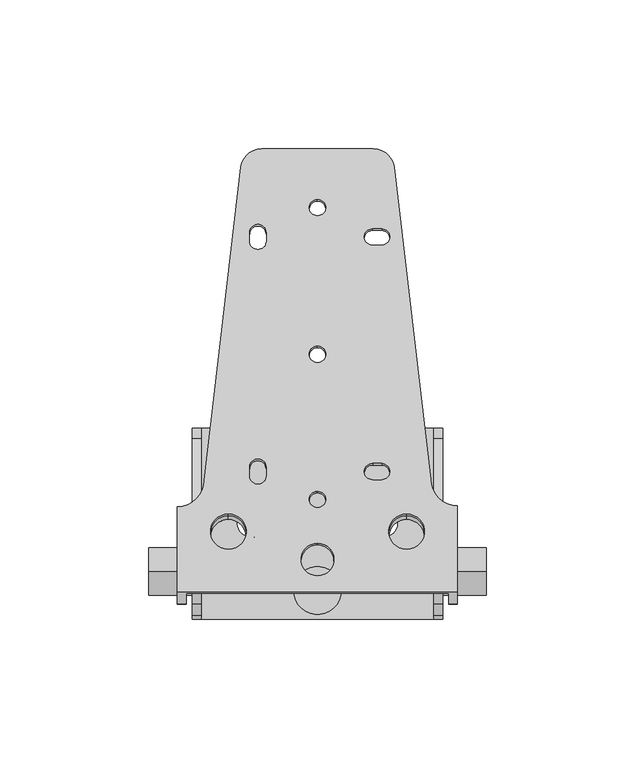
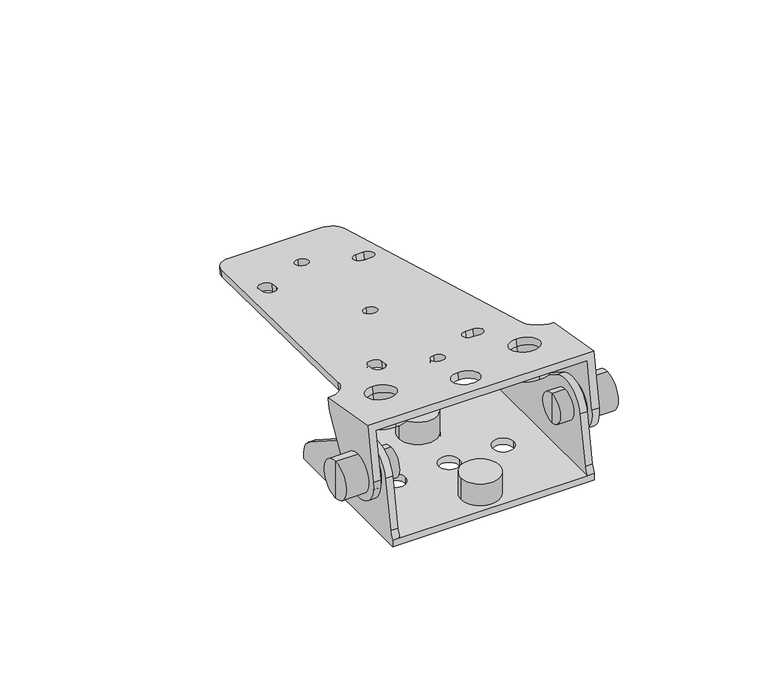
"""IFC4 building model written with IfcOpenShell, lengths in millimetres: proxy geometry, d&b xS-Series 42S l 44S Mounting Bracket : 42S l 44S Mounting Bracket."""

from ifc_helpers import new_model, si_unit, point, frame, frame_2d, origin, origin_with_axes, place, context, project, spatial, polyline, circle_curve, trimmed, segment, composite_curve, outline, extrude, source, transform, mapped, element, save
from ifc_brep_helpers import plane_surface, cylinder_surface, revolved_surface, advanced_brep


def communication_devices_69af7706(model_context):
    return source(origin(), model_context, "Body", "SolidModel", [
        advanced_brep(
        [(-25.7132706, 119.1969693, 21.4620232), (-18.7591389, 125.302745, 20.3854102), (18.7591389, 125.302745, 20.3854102), (25.7132706, 119.1969693, 21.4620232), (37.9541317, 14.4121133, 39.9384205), (47.0, 5.503672, 41.509219), (47.0, 5.1946437, 41.5637091), (44.0, 5.1946437, 41.5637091), (44.0, -23.4032257, 46.606285), (-44.0, -23.4032257, 46.606285), (-44.0, 5.1946437, 41.5637091), (-47.0, 5.1946437, 41.5637091), (-37.9949251, 14.0629112, 39.9999942), (-29.9380242, 2.7118503, 42.0014925), (-29.9380242, -9.1058427, 44.0852706), (29.9380242, 2.7118503, 42.0014925), (29.9380242, -9.1058427, 44.0852706), (0.0, 108.3148113, 23.3808413), (0.0, 102.8983686, 24.3359062), (0.0, 10.3264399, 40.6588349), (0.0, 4.9099972, 41.6138999), (0.0, -7.1538978, 43.7410901), (0.0, -17.986783, 45.65122), (-22.75, 15.4966806, 39.747182), (-17.25, 15.4966806, 39.747182), (-17.25, 18.4511038, 39.2262375), (-22.75, 18.4511038, 39.2262375), (21.5, 14.2656709, 39.9642422), (21.5, 19.6821135, 39.0091772), (18.5, 19.6821135, 39.0091772), (18.5, 14.2656709, 39.9642422), (-17.25, 97.2357241, 25.3343833), (-22.75, 97.2357241, 25.3343833), (-22.75, 94.2813008, 25.8553278), (-17.25, 94.2813008, 25.8553278), (18.5, 98.4667337, 25.117323), (18.5, 93.0502911, 26.072388), (21.5, 93.0502911, 26.072388), (21.5, 98.4667337, 25.117323), (0.0, 59.0744236, 32.0632501), (0.0, 53.657981, 33.0183151), (-25.7132706, 119.7179138, 24.4164464), (-37.9949251, 14.5838558, 42.9544175), (-47.0, 5.7155882, 44.5181323), (-47.0, -22.8822812, 49.5607083), (47.0, -22.8822812, 49.5607083), (47.0, 6.0246166, 44.4636423), (37.9541317, 14.9330578, 42.8928437), (25.7132706, 119.7179138, 24.4164464), (18.7591389, 125.8236896, 23.3398334), (-18.7591389, 125.8236896, 23.3398334), (-29.9380242, 3.2327949, 44.9559158), (-29.9380242, -8.5848982, 47.0396939), (29.9380242, 3.2327949, 44.9559158), (29.9380242, -8.5848982, 47.0396939), (0.0, 108.8357558, 26.3352645), (0.0, 103.4193132, 27.2903295), (0.0, 10.8473844, 43.6132582), (0.0, 5.4309417, 44.5683232), (0.0, -6.6329532, 46.6955133), (0.0, -17.4658385, 48.6056433), (-22.75, 16.0176251, 42.7016053), (-22.75, 18.9720483, 42.1806607), (-17.25, 18.9720483, 42.1806607), (-17.25, 16.0176251, 42.7016053), (21.5, 14.7866154, 42.9186655), (18.5, 14.7866154, 42.9186655), (18.5, 20.203058, 41.9636005), (21.5, 20.203058, 41.9636005), (-17.25, 97.7566686, 28.2888065), (-17.25, 94.8022453, 28.809751), (-22.75, 94.8022453, 28.809751), (-22.75, 97.7566686, 28.2888065), (18.5, 98.9876783, 28.0717463), (21.5, 98.9876783, 28.0717463), (21.5, 93.5712356, 29.0268113), (18.5, 93.5712356, 29.0268113), (0.0, 59.5953682, 35.0176734), (0.0, 54.1789255, 35.9727384), (-47.0, 4.7431584, 39.0032089), (-47.0, -6.5170245, 19.5), (-47.0, -26.8761892, 26.91013), (-44.0, -26.8761892, 26.91013), (44.0, -26.8761892, 26.91013), (47.0, -26.8761892, 26.91013), (47.0, -6.5170245, 19.5), (47.0, 4.7431584, 39.0032089), (44.0, 4.7431584, 39.0032089), (44.0, -6.5170245, 19.5), (-44.0, -6.5170245, 19.5), (-44.0, 4.7431584, 39.0032089)],
        [
            (0, 1, circle_curve(frame((-18.7591389, 118.4090907, 21.6009474), z_axis=(0.0, -0.17364817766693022, -0.9848077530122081), x_axis=(0.0, -0.9848077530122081, 0.17364817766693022)), 7.0)),
            (1, 2),
            (2, 3, circle_curve(frame((18.7591389, 118.4090907, 21.6009474), z_axis=(0.0, -0.17364817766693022, -0.9848077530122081), x_axis=(0.0, -0.9848077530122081, 0.17364817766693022)), 7.0)),
            (3, 4),
            (4, 5, circle_curve(frame((47.0, 14.4121133, 39.9384205), z_axis=(0.0, 0.17364817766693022, 0.9848077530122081), x_axis=(0.0, -0.9848077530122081, 0.17364817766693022)), 9.0458683)),
            (5, 6),
            (6, 7),
            (7, 8),
            (8, 9),
            (9, 10),
            (10, 11),
            (11, 12, circle_curve(frame((-47.0, 14.0629112, 39.9999942), z_axis=(0.0, 0.17364817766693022, 0.9848077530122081), x_axis=(0.0, -0.9848077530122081, 0.17364817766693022)), 9.0050749)),
            (12, 0),
            (13, 14, circle_curve(frame((-29.9380242, -3.1969962, 43.0433816), z_axis=(0.0, 0.17364817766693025, 0.9848077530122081), x_axis=(0.0, -0.9848077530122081, 0.17364817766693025)), 6.0)),
            (14, 13, circle_curve(frame((-29.9380242, -3.1969962, 43.0433816), z_axis=(0.0, 0.17364817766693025, 0.9848077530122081), x_axis=(0.0, -0.9848077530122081, 0.17364817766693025)), 6.0)),
            (15, 16, circle_curve(frame((29.9380242, -3.1969962, 43.0433816), z_axis=(0.0, 0.17364817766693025, 0.9848077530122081), x_axis=(0.0, -0.9848077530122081, 0.17364817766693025)), 6.0)),
            (16, 15, circle_curve(frame((29.9380242, -3.1969962, 43.0433816), z_axis=(0.0, 0.17364817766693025, 0.9848077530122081), x_axis=(0.0, -0.9848077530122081, 0.17364817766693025)), 6.0)),
            (17, 18, circle_curve(frame((0.0, 105.60659, 23.8583737), z_axis=(0.0, 0.17364817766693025, 0.9848077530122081), x_axis=(0.0, -0.9848077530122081, 0.17364817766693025)), 2.75)),
            (18, 17, circle_curve(frame((0.0, 105.60659, 23.8583737), z_axis=(0.0, 0.17364817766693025, 0.9848077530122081), x_axis=(0.0, -0.9848077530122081, 0.17364817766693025)), 2.75)),
            (19, 20, circle_curve(frame((0.0, 7.6182185, 41.1363674), z_axis=(0.0, 0.17364817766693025, 0.9848077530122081), x_axis=(0.0, -0.9848077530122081, 0.17364817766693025)), 2.75)),
            (20, 19, circle_curve(frame((0.0, 7.6182185, 41.1363674), z_axis=(0.0, 0.17364817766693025, 0.9848077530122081), x_axis=(0.0, -0.9848077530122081, 0.17364817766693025)), 2.75)),
            (21, 22, circle_curve(frame((0.0, -12.5703404, 44.6961551), z_axis=(0.0, 0.17364817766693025, 0.9848077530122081), x_axis=(0.0, -0.9848077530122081, 0.17364817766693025)), 5.5)),
            (22, 21, circle_curve(frame((0.0, -12.5703404, 44.6961551), z_axis=(0.0, 0.17364817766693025, 0.9848077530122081), x_axis=(0.0, -0.9848077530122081, 0.17364817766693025)), 5.5)),
            (23, 24, circle_curve(frame((-20.0, 15.4966806, 39.747182), z_axis=(0.0, 0.17364817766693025, 0.9848077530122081), x_axis=(0.0, -0.9848077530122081, 0.17364817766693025)), 2.75)),
            (24, 25),
            (25, 26, circle_curve(frame((-20.0, 18.4511038, 39.2262375), z_axis=(0.0, 0.17364817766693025, 0.9848077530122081), x_axis=(0.0, -0.9848077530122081, 0.17364817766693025)), 2.75)),
            (26, 23),
            (27, 28, circle_curve(frame((21.5, 16.9738922, 39.4867097), z_axis=(0.0, 0.17364817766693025, 0.9848077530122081), x_axis=(0.0, -0.9848077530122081, 0.17364817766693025)), 2.75)),
            (28, 29),
            (29, 30, circle_curve(frame((18.5, 16.9738922, 39.4867097), z_axis=(0.0, 0.17364817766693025, 0.9848077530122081), x_axis=(0.0, -0.9848077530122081, 0.17364817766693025)), 2.75)),
            (30, 27),
            (31, 32, circle_curve(frame((-20.0, 97.2357241, 25.3343833), z_axis=(0.0, 0.17364817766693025, 0.9848077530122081), x_axis=(0.0, -0.9848077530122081, 0.17364817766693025)), 2.75)),
            (32, 33),
            (33, 34, circle_curve(frame((-20.0, 94.2813008, 25.8553278), z_axis=(0.0, 0.17364817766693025, 0.9848077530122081), x_axis=(0.0, -0.9848077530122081, 0.17364817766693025)), 2.75)),
            (34, 31),
            (35, 36, circle_curve(frame((18.5, 95.7585124, 25.5948555), z_axis=(0.0, 0.17364817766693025, 0.9848077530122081), x_axis=(0.0, -0.9848077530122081, 0.17364817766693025)), 2.75)),
            (36, 37),
            (37, 38, circle_curve(frame((21.5, 95.7585124, 25.5948555), z_axis=(0.0, 0.17364817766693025, 0.9848077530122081), x_axis=(0.0, -0.9848077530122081, 0.17364817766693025)), 2.75)),
            (38, 35),
            (39, 40, circle_curve(frame((0.0, 56.3662023, 32.5407826), z_axis=(0.0, 0.17364817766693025, 0.9848077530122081), x_axis=(0.0, -0.9848077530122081, 0.17364817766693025)), 2.75)),
            (40, 39, circle_curve(frame((0.0, 56.3662023, 32.5407826), z_axis=(0.0, 0.17364817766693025, 0.9848077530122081), x_axis=(0.0, -0.9848077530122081, 0.17364817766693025)), 2.75)),
            (41, 42),
            (42, 43, circle_curve(frame((-47.0, 14.5838558, 42.9544175), z_axis=(0.0, -0.17364817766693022, -0.9848077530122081), x_axis=(0.0, -0.9848077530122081, 0.17364817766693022)), 9.0050749)),
            (43, 44),
            (44, 45),
            (45, 46),
            (46, 47, circle_curve(frame((47.0, 14.9330578, 42.8928437), z_axis=(0.0, -0.17364817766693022, -0.9848077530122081), x_axis=(0.0, -0.9848077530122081, 0.17364817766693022)), 9.0458683)),
            (47, 48),
            (48, 49, circle_curve(frame((18.7591389, 118.9300353, 24.5553707), z_axis=(0.0, 0.17364817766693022, 0.9848077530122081), x_axis=(0.0, -0.9848077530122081, 0.17364817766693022)), 7.0)),
            (49, 50),
            (50, 41, circle_curve(frame((-18.7591389, 118.9300353, 24.5553707), z_axis=(0.0, 0.17364817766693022, 0.9848077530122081), x_axis=(0.0, -0.9848077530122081, 0.17364817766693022)), 7.0)),
            (51, 52, circle_curve(frame((-29.9380242, -2.6760516, 45.9978048), z_axis=(0.0, -0.17364817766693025, -0.9848077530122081), x_axis=(0.0, -0.9848077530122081, 0.17364817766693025)), 6.0)),
            (52, 51, circle_curve(frame((-29.9380242, -2.6760516, 45.9978048), z_axis=(0.0, -0.17364817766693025, -0.9848077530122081), x_axis=(0.0, -0.9848077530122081, 0.17364817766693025)), 6.0)),
            (53, 54, circle_curve(frame((29.9380242, -2.6760516, 45.9978048), z_axis=(0.0, -0.17364817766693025, -0.9848077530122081), x_axis=(0.0, -0.9848077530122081, 0.17364817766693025)), 6.0)),
            (54, 53, circle_curve(frame((29.9380242, -2.6760516, 45.9978048), z_axis=(0.0, -0.17364817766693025, -0.9848077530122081), x_axis=(0.0, -0.9848077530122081, 0.17364817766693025)), 6.0)),
            (55, 56, circle_curve(frame((0.0, 106.1275345, 26.812797), z_axis=(0.0, -0.17364817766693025, -0.9848077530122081), x_axis=(0.0, -0.9848077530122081, 0.17364817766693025)), 2.75)),
            (56, 55, circle_curve(frame((0.0, 106.1275345, 26.812797), z_axis=(0.0, -0.17364817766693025, -0.9848077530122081), x_axis=(0.0, -0.9848077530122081, 0.17364817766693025)), 2.75)),
            (57, 58, circle_curve(frame((0.0, 8.1391631, 44.0907907), z_axis=(0.0, -0.17364817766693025, -0.9848077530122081), x_axis=(0.0, -0.9848077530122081, 0.17364817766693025)), 2.75)),
            (58, 57, circle_curve(frame((0.0, 8.1391631, 44.0907907), z_axis=(0.0, -0.17364817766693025, -0.9848077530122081), x_axis=(0.0, -0.9848077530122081, 0.17364817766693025)), 2.75)),
            (59, 60, circle_curve(frame((0.0, -12.0493959, 47.6505783), z_axis=(0.0, -0.17364817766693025, -0.9848077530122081), x_axis=(0.0, -0.9848077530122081, 0.17364817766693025)), 5.5)),
            (60, 59, circle_curve(frame((0.0, -12.0493959, 47.6505783), z_axis=(0.0, -0.17364817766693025, -0.9848077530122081), x_axis=(0.0, -0.9848077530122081, 0.17364817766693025)), 5.5)),
            (61, 62),
            (62, 63, circle_curve(frame((-20.0, 18.9720483, 42.1806607), z_axis=(0.0, -0.17364817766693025, -0.9848077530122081), x_axis=(0.0, -0.9848077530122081, 0.17364817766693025)), 2.75)),
            (63, 64),
            (64, 61, circle_curve(frame((-20.0, 16.0176251, 42.7016053), z_axis=(0.0, -0.17364817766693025, -0.9848077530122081), x_axis=(0.0, -0.9848077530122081, 0.17364817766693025)), 2.75)),
            (65, 66),
            (66, 67, circle_curve(frame((18.5, 17.4948367, 42.441133), z_axis=(0.0, -0.17364817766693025, -0.9848077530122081), x_axis=(0.0, -0.9848077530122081, 0.17364817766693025)), 2.75)),
            (67, 68),
            (68, 65, circle_curve(frame((21.5, 17.4948367, 42.441133), z_axis=(0.0, -0.17364817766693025, -0.9848077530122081), x_axis=(0.0, -0.9848077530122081, 0.17364817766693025)), 2.75)),
            (69, 70),
            (70, 71, circle_curve(frame((-20.0, 94.8022453, 28.809751), z_axis=(0.0, -0.17364817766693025, -0.9848077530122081), x_axis=(0.0, -0.9848077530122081, 0.17364817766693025)), 2.75)),
            (71, 72),
            (72, 69, circle_curve(frame((-20.0, 97.7566686, 28.2888065), z_axis=(0.0, -0.17364817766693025, -0.9848077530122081), x_axis=(0.0, -0.9848077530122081, 0.17364817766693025)), 2.75)),
            (73, 74),
            (74, 75, circle_curve(frame((21.5, 96.279457, 28.5492788), z_axis=(0.0, -0.17364817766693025, -0.9848077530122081), x_axis=(0.0, -0.9848077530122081, 0.17364817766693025)), 2.75)),
            (75, 76),
            (76, 73, circle_curve(frame((18.5, 96.279457, 28.5492788), z_axis=(0.0, -0.17364817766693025, -0.9848077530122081), x_axis=(0.0, -0.9848077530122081, 0.17364817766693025)), 2.75)),
            (77, 78, circle_curve(frame((0.0, 56.8871468, 35.4952059), z_axis=(0.0, -0.17364817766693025, -0.9848077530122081), x_axis=(0.0, -0.9848077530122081, 0.17364817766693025)), 2.75)),
            (78, 77, circle_curve(frame((0.0, 56.8871468, 35.4952059), z_axis=(0.0, -0.17364817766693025, -0.9848077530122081), x_axis=(0.0, -0.9848077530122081, 0.17364817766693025)), 2.75)),
            (12, 42),
            (41, 0),
            (11, 43),
            (11, 79),
            (79, 80),
            (80, 81, circle_curve(frame((-47.0, -16.043304, 25.0), z_axis=(-1.0, 0.0, 0.0), x_axis=(0.0, -0.9848077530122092, 0.17364817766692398)), 11.0)),
            (81, 44),
            (81, 82),
            (82, 9),
            (8, 83),
            (83, 84),
            (84, 45),
            (84, 85, circle_curve(frame((47.0, -16.043304, 25.0), z_axis=(1.0, 0.0, 0.0), x_axis=(0.0, -0.9848077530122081, 0.17364817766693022)), 11.0)),
            (85, 86),
            (86, 6),
            (5, 46),
            (4, 47),
            (3, 48),
            (2, 49),
            (1, 50),
            (14, 52),
            (51, 13),
            (16, 54),
            (53, 15),
            (18, 56),
            (55, 17),
            (20, 58),
            (57, 19),
            (22, 60),
            (59, 21),
            (26, 62),
            (61, 23),
            (25, 63),
            (24, 64),
            (30, 66),
            (65, 27),
            (29, 67),
            (28, 68),
            (34, 70),
            (69, 31),
            (33, 71),
            (32, 72),
            (38, 74),
            (73, 35),
            (37, 75),
            (36, 76),
            (7, 87),
            (87, 88),
            (88, 83, circle_curve(frame((44.0, -16.043304, 25.0), z_axis=(-1.0, 0.0, 0.0), x_axis=(0.0, -0.9848077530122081, 0.17364817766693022)), 11.0)),
            (85, 88),
            (87, 86),
            (82, 89, circle_curve(frame((-44.0, -16.043304, 25.0), z_axis=(1.0, 0.0, 0.0), x_axis=(0.0, -0.9848077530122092, 0.17364817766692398)), 11.0)),
            (89, 90),
            (90, 10),
            (79, 90),
            (89, 80),
            (40, 78),
            (77, 39),
        ],
        [
            plane_surface(frame((-37.9541317, 14.4121133, 39.9384205), z_axis=(0.0, -0.17364817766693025, -0.9848077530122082), x_axis=(-0.11429040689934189, -0.9783546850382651, 0.17251032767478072))),
            plane_surface(frame((-37.9541317, 14.9330578, 42.8928437), z_axis=(0.0, 0.17364817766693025, 0.9848077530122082), x_axis=(0.11429040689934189, 0.9783546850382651, -0.17251032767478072))),
            plane_surface(frame((-25.7132706, 119.1969693, 21.4620232), z_axis=(-0.993447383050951, 0.112554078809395, -0.019846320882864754), x_axis=(0.0, 0.17364817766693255, 0.9848077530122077))),
            revolved_surface(polyline([(-47.0, 5.7155882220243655, 44.51813234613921), (-47.0, 5.194643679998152, 41.56370903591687)]), (-47.0, 14.5838558, 42.9544175), (0.0, 0.17364817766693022, 0.9848077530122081)),
            plane_surface(frame((-47.0, 5.1946437, 41.5637091), z_axis=(-1.0, 0.0, 0.0), x_axis=(0.0, 0.17364817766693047, 0.984807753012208))),
            plane_surface(frame((-47.0, -23.4032257, 46.606285), z_axis=(0.0, -0.9848077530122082, 0.17364817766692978), x_axis=(0.0, 0.17364817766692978, 0.9848077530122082))),
            plane_surface(frame((47.0, -23.4032257, 46.606285), z_axis=(1.0000000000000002, 0.0, 0.0), x_axis=(0.0, 0.17364817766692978, 0.9848077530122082))),
            revolved_surface(polyline([(47.0, 6.024616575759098, 44.46364230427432), (47.0, 5.503672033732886, 41.509218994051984)]), (47.0, 14.9330578, 42.8928437), (0.0, 0.17364817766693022, 0.9848077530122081)),
            plane_surface(frame((37.9541317, 14.4121133, 39.9384205), z_axis=(0.9934473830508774, 0.11255407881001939, -0.01984632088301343), x_axis=(0.0, 0.17364817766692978, 0.9848077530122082))),
            cylinder_surface(frame((18.7591389, 118.9300353, 24.5553707), z_axis=(0.0, -0.17364817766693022, -0.9848077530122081), x_axis=(0.0, -0.9848077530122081, 0.17364817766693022)), 7.0),
            plane_surface(frame((18.7591389, 125.302745, 20.3854102), z_axis=(0.0, 0.9848077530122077, -0.17364817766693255), x_axis=(0.0, 0.17364817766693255, 0.9848077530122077))),
            cylinder_surface(frame((-18.7591389, 118.9300353, 24.5553707), z_axis=(0.0, -0.17364817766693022, -0.9848077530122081), x_axis=(0.0, -0.9848077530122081, 0.17364817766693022)), 7.0),
            revolved_surface(polyline([(-29.9380242, -8.584898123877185, 47.03969392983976), (-29.9380242, -9.105842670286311, 44.08527059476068)]), (-29.9380242, -6.6699597, 23.3472265), (0.0, 0.17364817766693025, 0.9848077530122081)),
            revolved_surface(polyline([(29.9380242, -8.584898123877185, 47.03969392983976), (29.9380242, -9.105842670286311, 44.08527059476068)]), (29.9380242, -6.6699597, 23.3472265), (0.0, 0.17364817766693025, 0.9848077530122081)),
            revolved_surface(polyline([(0.0, 103.41931316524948, 27.290329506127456), (0.0, 102.89836862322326, 24.335906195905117)]), (0.0, 102.1336264, 4.1622187), (0.0, 0.17364817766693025, 0.9848077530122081)),
            revolved_surface(polyline([(0.0, 5.430941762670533, 44.56832319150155), (0.0, 4.909997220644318, 41.6138998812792)]), (0.0, 4.145255, 21.4402124), (0.0, 0.17364817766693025, 0.9848077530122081)),
            revolved_surface(polyline([(0.0, -17.465838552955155, 48.605643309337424), (0.0, -17.986783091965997, 45.651220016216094)]), (0.0, -16.043304, 25.0), (0.0, 0.17364817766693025, 0.9848077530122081)),
            plane_surface(frame((-22.75, 15.4966806, 39.747182), z_axis=(1.0, 0.0, 0.0), x_axis=(0.0, 0.17364817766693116, 0.9848077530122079))),
            revolved_surface(polyline([(-20.0, 16.263827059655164, 42.65819317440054), (-20.0, 15.742882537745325, 39.703769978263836)]), (-20.0, 14.9781403, 19.5300824), (0.0, 0.17364817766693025, 0.9848077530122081)),
            plane_surface(frame((-17.25, 18.4511038, 39.2262375), z_axis=(-1.0, 0.0, 0.0), x_axis=(0.0, 0.17364817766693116, 0.9848077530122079))),
            revolved_surface(polyline([(-20.0, 13.30940377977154, 43.17913778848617), (-20.0, 12.788459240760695, 40.22471449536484)]), (-20.0, 12.023717, 20.0510269), (0.0, 0.17364817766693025, 0.9848077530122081)),
            plane_surface(frame((21.5, 14.2656709, 39.9642422), z_axis=(0.0, 0.9848077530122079, -0.17364817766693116), x_axis=(0.0, 0.17364817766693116, 0.9848077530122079))),
            revolved_surface(polyline([(18.5, 14.786615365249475, 42.918665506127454), (18.5, 14.265670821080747, 39.96424218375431)]), (18.5, 13.5009286, 19.7905547), (0.0, 0.17364817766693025, 0.9848077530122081)),
            plane_surface(frame((18.5, 19.6821135, 39.0091772), z_axis=(0.0, -0.9848077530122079, 0.17364817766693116), x_axis=(0.0, 0.17364817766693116, 0.9848077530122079))),
            revolved_surface(polyline([(21.5, 14.786615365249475, 42.918665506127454), (21.5, 14.265670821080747, 39.96424218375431)]), (21.5, 13.5009286, 19.7905547), (0.0, 0.17364817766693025, 0.9848077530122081)),
            plane_surface(frame((-17.25, 97.2357241, 25.3343833), z_axis=(-1.0, 0.0, 0.0), x_axis=(0.0, 0.173648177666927, 0.9848077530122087))),
            revolved_surface(polyline([(-20.0, 92.09402396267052, 29.287283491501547), (-20.0, 91.57307944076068, 26.332860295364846)]), (-20.0, 90.8083372, 6.1591727), (0.0, 0.17364817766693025, 0.9848077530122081)),
            plane_surface(frame((-22.75, 94.2813008, 25.8553278), z_axis=(1.0000000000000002, 0.0, 0.0), x_axis=(0.0, 0.17364817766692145, 0.9848077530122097))),
            revolved_surface(polyline([(-20.0, 95.04844726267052, 28.76633899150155), (-20.0, 94.52750274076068, 25.81191579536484)]), (-20.0, 93.7627605, 5.6382282), (0.0, 0.17364817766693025, 0.9848077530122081)),
            plane_surface(frame((18.5, 98.4667337, 25.117323), z_axis=(0.0, -0.9848077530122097, 0.17364817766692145), x_axis=(0.0, 0.17364817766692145, 0.9848077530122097))),
            revolved_surface(polyline([(21.5, 93.57123566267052, 29.026811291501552), (21.5, 93.05029111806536, 26.072387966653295)]), (21.5, 92.2855489, 5.8987005), (0.0, 0.17364817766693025, 0.9848077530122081)),
            plane_surface(frame((21.5, 93.0502911, 26.072388), z_axis=(0.0, 0.9848077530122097, -0.17364817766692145), x_axis=(0.0, 0.17364817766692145, 0.9848077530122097))),
            revolved_surface(polyline([(18.5, 93.57123566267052, 29.026811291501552), (18.5, 93.05029111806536, 26.072387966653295)]), (18.5, 92.2855489, 5.8987005), (0.0, 0.17364817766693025, 0.9848077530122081)),
            plane_surface(frame((44.0, -23.4032257, 46.606285), z_axis=(-1.0, 0.0, 0.0), x_axis=(0.0, -0.9848077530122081, 0.17364817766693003))),
            plane_surface(frame((47.0, 4.7431584, 39.0032089), z_axis=(0.0, 0.8660254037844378, -0.5000000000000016), x_axis=(-1.0, 0.0, 0.0))),
            cylinder_surface(frame((44.0, -16.043304, 25.0), z_axis=(1.0, 0.0, 0.0), x_axis=(0.0, -0.9848077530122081, 0.17364817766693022)), 11.0),
            plane_surface(frame((47.0, 5.1946437, 41.5637091), z_axis=(0.0, 0.9848077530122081, -0.1736481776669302), x_axis=(-1.0, 0.0, 0.0))),
            plane_surface(frame((-44.0, -26.8761892, 26.91013), z_axis=(1.0, 0.0, 0.0), x_axis=(0.0, 0.1736481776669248, 0.984807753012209))),
            plane_surface(frame((-47.0, -6.5170245, 19.5), z_axis=(0.0, 0.8660254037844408, -0.49999999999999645), x_axis=(1.0, 0.0, 0.0))),
            cylinder_surface(frame((-44.0, -16.043304, 25.0), z_axis=(-1.0, 0.0, 0.0), x_axis=(0.0, -0.9848077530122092, 0.17364817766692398)), 11.0),
            plane_surface(frame((-47.0, 4.7431584, 39.0032089), z_axis=(0.0, 0.9848077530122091, -0.17364817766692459), x_axis=(1.0, 0.0, 0.0))),
            revolved_surface(polyline([(0.0, 54.178925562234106, 35.972738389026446), (0.0, 53.65798101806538, 33.018315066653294)]), (0.0, 52.8932388, 12.8446276), (0.0, 0.17364817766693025, 0.9848077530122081)),
        ],
        [
            (0, [[1, 2, 3, 4, 5, 6, 7, 8, 9, 10, 11, 12, 13], [14, 15], [16, 17], [18, 19], [20, 21], [22, 23], [24, 25, 26, 27], [28, 29, 30, 31], [32, 33, 34, 35], [36, 37, 38, 39], [40, 41]]),
            (1, [[42, 43, 44, 45, 46, 47, 48, 49, 50, 51], [52, 53], [54, 55], [56, 57], [58, 59], [60, 61], [62, 63, 64, 65], [66, 67, 68, 69], [70, 71, 72, 73], [74, 75, 76, 77], [78, 79]]),
            (2, [[80, -42, 81, -13]]),
            (3, [[82, -43, -80, -12]]),
            (4, [[-82, 83, 84, 85, 86, -44]]),
            (5, [[87, 88, -9, 89, 90, 91, -45, -86]]),
            (6, [[-91, 92, 93, 94, -6, 95, -46]]),
            (7, [[96, -47, -95, -5]]),
            (8, [[97, -48, -96, -4]]),
            (9, [[98, -49, -97, -3]]),
            (10, [[99, -50, -98, -2]]),
            (11, [[-81, -51, -99, -1]]),
            (12, [[100, -52, 101, -15]]),
            (12, [[-101, -53, -100, -14]]),
            (13, [[102, -54, 103, -17]]),
            (13, [[-103, -55, -102, -16]]),
            (14, [[104, -56, 105, -19]]),
            (14, [[-105, -57, -104, -18]]),
            (15, [[106, -58, 107, -21]]),
            (15, [[-107, -59, -106, -20]]),
            (16, [[108, -60, 109, -23]]),
            (16, [[-109, -61, -108, -22]]),
            (17, [[110, -62, 111, -27]]),
            (18, [[112, -63, -110, -26]]),
            (19, [[113, -64, -112, -25]]),
            (20, [[-111, -65, -113, -24]]),
            (21, [[114, -66, 115, -31]]),
            (22, [[116, -67, -114, -30]]),
            (23, [[117, -68, -116, -29]]),
            (24, [[-115, -69, -117, -28]]),
            (25, [[118, -70, 119, -35]]),
            (26, [[120, -71, -118, -34]]),
            (27, [[121, -72, -120, -33]]),
            (28, [[-119, -73, -121, -32]]),
            (29, [[122, -74, 123, -39]]),
            (30, [[124, -75, -122, -38]]),
            (31, [[125, -76, -124, -37]]),
            (32, [[-123, -77, -125, -36]]),
            (33, [[-8, 126, 127, 128, -89]]),
            (34, [[129, -127, 130, -93]]),
            (35, [[-90, -128, -129, -92]]),
            (36, [[-130, -126, -7, -94]]),
            (37, [[-10, -88, 131, 132, 133]]),
            (38, [[134, -132, 135, -84]]),
            (39, [[-135, -131, -87, -85]]),
            (40, [[-11, -133, -134, -83]]),
            (41, [[136, -78, 137, -41]]),
            (41, [[-137, -79, -136, -40]]),
        ],
    ),
        extrude(outline(composite_curve([segment(trimmed(circle_curve(frame_2d((0.0, -6.0)), 9.0), [point((0.0, -14.9999999))], [point((0.0, 3.0000001))], False, "CARTESIAN"), True, "CONTINUOUS"), segment(trimmed(circle_curve(frame_2d((0.0, -6.0)), 9.0), [point((0.0, 3.0000001))], [point((0.0, -14.9999999))], False, "CARTESIAN"), True, "CONTINUOUS")], self_intersect=False), holes=[composite_curve([segment(trimmed(circle_curve(frame_2d((0.0, -6.0)), 6.0), [point((0.0, -12.0))], [point((0.0, 0.0))], True, "CARTESIAN"), True, "CONTINUOUS"), segment(trimmed(circle_curve(frame_2d((0.0, -6.0)), 6.0), [point((0.0, 0.0))], [point((0.0, -12.0))], True, "CARTESIAN"), True, "CONTINUOUS")], self_intersect=False)]), frame((-29.9380242, -10.4255688, 36.6007317), z_axis=(0.0, 0.17364817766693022, 0.9848077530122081), x_axis=(-1.0, 0.0, 0.0)), (0.0, 0.0, 1.0), 7.6),
        extrude(outline(composite_curve([segment(trimmed(circle_curve(frame_2d((-59.8760484, -6.0)), 9.0), [point((-59.8760484, -14.9999999))], [point((-59.8760484, 3.0000001))], False, "CARTESIAN"), True, "CONTINUOUS"), segment(trimmed(circle_curve(frame_2d((-59.8760484, -6.0)), 9.0), [point((-59.8760484, 3.0000001))], [point((-59.8760484, -14.9999999))], False, "CARTESIAN"), True, "CONTINUOUS")], self_intersect=False), holes=[composite_curve([segment(trimmed(circle_curve(frame_2d((-59.8760484, -6.0)), 6.0), [point((-59.8760484, -12.0))], [point((-59.8760484, 0.0))], True, "CARTESIAN"), True, "CONTINUOUS"), segment(trimmed(circle_curve(frame_2d((-59.8760484, -6.0)), 6.0), [point((-59.8760484, 0.0))], [point((-59.8760484, -12.0))], True, "CARTESIAN"), True, "CONTINUOUS")], self_intersect=False)]), frame((-29.9380242, -10.4255688, 36.6007317), z_axis=(0.0, 0.17364817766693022, 0.9848077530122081), x_axis=(-1.0, 0.0, 0.0)), (0.0, 0.0, 1.0), 7.6),
        advanced_brep(
        [(-56.6, -16.043304, 25.0), (-56.6, -16.043304, 33.0047051), (-56.6, -16.043304, 16.9952949), (-47.0, -16.043304, 16.9952949), (-47.0, -16.043304, 33.0047051), (-47.0, -16.043304, 25.0)],
        [
            (0, 1),
            (1, 2, circle_curve(frame((-56.6, -16.043304, 25.0), z_axis=(-1.0, 0.0, 0.0), x_axis=(0.0, 0.0, 1.0)), 8.0047051)),
            (2, 0),
            (2, 1, circle_curve(frame((-56.6, -16.043304, 25.0), z_axis=(-1.0, 0.0, 0.0), x_axis=(0.0, 0.0, 1.0)), 8.0047051)),
            (3, 4, circle_curve(frame((-47.0, -16.043304, 25.0), z_axis=(1.0, 0.0, 0.0), x_axis=(0.0, 0.0, 1.0)), 8.0047051)),
            (4, 5),
            (5, 3),
            (4, 3, circle_curve(frame((-47.0, -16.043304, 25.0), z_axis=(1.0, 0.0, 0.0), x_axis=(0.0, 0.0, 1.0)), 8.0047051)),
            (1, 4),
            (3, 2),
        ],
        [
            plane_surface(frame((-56.6, -16.043304, 25.0), z_axis=(-1.0, 0.0, 0.0), x_axis=(0.0, 0.0, 1.0))),
            plane_surface(frame((-47.0, -16.043304, 25.0), z_axis=(1.0, 0.0, 0.0), x_axis=(0.0, 0.0, 1.0))),
            cylinder_surface(frame((-71.6, -16.043304, 25.0), z_axis=(-1.0, 0.0, 0.0), x_axis=(0.0, 0.0, 1.0)), 8.0047051),
        ],
        [
            (0, [[1, 2, 3]]),
            (0, [[-3, 4, -1]]),
            (1, [[5, 6, 7]]),
            (1, [[8, -7, -6]]),
            (2, [[-2, 9, -5, 10]]),
            (2, [[-4, -10, -8, -9]]),
        ],
    ),
        advanced_brep(
        [(-44.0, -16.043304, 16.9952949), (-44.0, -16.043304, 33.0047051), (-42.0, -16.043304, 33.0047051), (-42.0, -16.043304, 16.9952949), (-44.0, -16.043304, 25.0), (-42.0, -16.043304, 25.0)],
        [
            (0, 1, circle_curve(frame((-44.0, -16.043304, 25.0), z_axis=(1.0, 0.0, 0.0), x_axis=(0.0, 0.0, 1.0)), 8.0047051)),
            (1, 2),
            (2, 3, circle_curve(frame((-42.0, -16.043304, 25.0), z_axis=(-1.0, 0.0, 0.0), x_axis=(0.0, 0.0, 1.0)), 8.0047051)),
            (3, 0),
            (1, 0, circle_curve(frame((-44.0, -16.043304, 25.0), z_axis=(1.0, 0.0, 0.0), x_axis=(0.0, 0.0, 1.0)), 8.0047051)),
            (3, 2, circle_curve(frame((-42.0, -16.043304, 25.0), z_axis=(-1.0, 0.0, 0.0), x_axis=(0.0, 0.0, 1.0)), 8.0047051)),
            (4, 1),
            (0, 4),
            (2, 5),
            (5, 3),
        ],
        [
            cylinder_surface(frame((-71.6, -16.043304, 25.0), z_axis=(-1.0, 0.0, 0.0), x_axis=(0.0, 0.0, 1.0)), 8.0047051),
            plane_surface(frame((-44.0, -16.043304, 25.0), z_axis=(-1.0, 0.0, 0.0), x_axis=(0.0, 0.0, 1.0))),
            plane_surface(frame((-42.0, -16.043304, 25.0), z_axis=(1.0, 0.0, 0.0), x_axis=(0.0, 0.0, 1.0))),
        ],
        [
            (0, [[1, 2, 3, 4]]),
            (0, [[5, -4, 6, -2]]),
            (1, [[7, -1, 8]]),
            (1, [[-8, -5, -7]]),
            (2, [[-3, 9, 10]]),
            (2, [[-6, -10, -9]]),
        ],
    ),
        advanced_brep(
        [(-39.0, -16.043304, 18.6786387), (-39.0, -16.043304, 31.3213613), (-33.5, -16.043304, 31.3213613), (-33.5, -16.043304, 18.6786387), (-39.0, -16.043304, 25.0), (-33.5, -16.043304, 25.0)],
        [
            (0, 1, circle_curve(frame((-39.0, -16.043304, 25.0), z_axis=(1.0, 0.0, 0.0), x_axis=(0.0, 0.0, 1.0)), 6.3213613)),
            (1, 2),
            (2, 3, circle_curve(frame((-33.5, -16.043304, 25.0), z_axis=(-1.0, 0.0, 0.0), x_axis=(0.0, 0.0, 1.0)), 6.3213613)),
            (3, 0),
            (1, 0, circle_curve(frame((-39.0, -16.043304, 25.0), z_axis=(1.0, 0.0, 0.0), x_axis=(0.0, 0.0, 1.0)), 6.3213613)),
            (3, 2, circle_curve(frame((-33.5, -16.043304, 25.0), z_axis=(-1.0, 0.0, 0.0), x_axis=(0.0, 0.0, 1.0)), 6.3213613)),
            (4, 1),
            (0, 4),
            (2, 5),
            (5, 3),
        ],
        [
            cylinder_surface(frame((-71.6, -16.043304, 25.0), z_axis=(-1.0, 0.0, 0.0), x_axis=(0.0, 0.0, 1.0)), 6.3213613),
            plane_surface(frame((-39.0, -16.043304, 25.0), z_axis=(-1.0, 0.0, 0.0), x_axis=(0.0, 0.0, 1.0))),
            plane_surface(frame((-33.5, -16.043304, 25.0), z_axis=(1.0, 0.0, 0.0), x_axis=(0.0, 0.0, 1.0))),
        ],
        [
            (0, [[1, 2, 3, 4]]),
            (0, [[5, -4, 6, -2]]),
            (1, [[7, -1, 8]]),
            (1, [[-8, -5, -7]]),
            (2, [[-3, 9, 10]]),
            (2, [[-6, -10, -9]]),
        ],
    ),
        advanced_brep(
        [(47.0, -16.043304, 16.9952949), (47.0, -16.043304, 33.0047051), (56.6, -16.043304, 33.0047051), (56.6, -16.043304, 16.9952949), (47.0, -16.043304, 25.0), (56.6, -16.043304, 25.0)],
        [
            (0, 1, circle_curve(frame((47.0, -16.043304, 25.0), z_axis=(1.0, 0.0, 0.0), x_axis=(0.0, 0.0, 1.0)), 8.0047051)),
            (1, 2),
            (2, 3, circle_curve(frame((56.6, -16.043304, 25.0), z_axis=(-1.0, 0.0, 0.0), x_axis=(0.0, 0.0, 1.0)), 8.0047051)),
            (3, 0),
            (1, 0, circle_curve(frame((47.0, -16.043304, 25.0), z_axis=(1.0, 0.0, 0.0), x_axis=(0.0, 0.0, 1.0)), 8.0047051)),
            (3, 2, circle_curve(frame((56.6, -16.043304, 25.0), z_axis=(-1.0, 0.0, 0.0), x_axis=(0.0, 0.0, 1.0)), 8.0047051)),
            (4, 1),
            (0, 4),
            (2, 5),
            (5, 3),
        ],
        [
            cylinder_surface(frame((-71.6, -16.043304, 25.0), z_axis=(-1.0, 0.0, 0.0), x_axis=(0.0, 0.0, 1.0)), 8.0047051),
            plane_surface(frame((47.0, -16.043304, 25.0), z_axis=(-1.0, 0.0, 0.0), x_axis=(0.0, 0.0, 1.0))),
            plane_surface(frame((56.6, -16.043304, 25.0), z_axis=(1.0, 0.0, 0.0), x_axis=(0.0, 0.0, 1.0))),
        ],
        [
            (0, [[1, 2, 3, 4]]),
            (0, [[5, -4, 6, -2]]),
            (1, [[7, -1, 8]]),
            (1, [[-8, -5, -7]]),
            (2, [[-3, 9, 10]]),
            (2, [[-6, -10, -9]]),
        ],
    ),
        advanced_brep(
        [(42.0, -16.043304, 25.0), (42.0, -16.043304, 33.0047051), (42.0, -16.043304, 16.9952949), (44.0, -16.043304, 16.9952949), (44.0, -16.043304, 33.0047051), (44.0, -16.043304, 25.0)],
        [
            (0, 1),
            (1, 2, circle_curve(frame((42.0, -16.043304, 25.0), z_axis=(-1.0, 0.0, 0.0), x_axis=(0.0, 0.0, 1.0)), 8.0047051)),
            (2, 0),
            (2, 1, circle_curve(frame((42.0, -16.043304, 25.0), z_axis=(-1.0, 0.0, 0.0), x_axis=(0.0, 0.0, 1.0)), 8.0047051)),
            (3, 4, circle_curve(frame((44.0, -16.043304, 25.0), z_axis=(1.0, 0.0, 0.0), x_axis=(0.0, 0.0, 1.0)), 8.0047051)),
            (4, 5),
            (5, 3),
            (4, 3, circle_curve(frame((44.0, -16.043304, 25.0), z_axis=(1.0, 0.0, 0.0), x_axis=(0.0, 0.0, 1.0)), 8.0047051)),
            (1, 4),
            (3, 2),
        ],
        [
            plane_surface(frame((42.0, -16.043304, 25.0), z_axis=(-1.0, 0.0, 0.0), x_axis=(0.0, 0.0, 1.0))),
            plane_surface(frame((44.0, -16.043304, 25.0), z_axis=(1.0, 0.0, 0.0), x_axis=(0.0, 0.0, 1.0))),
            cylinder_surface(frame((-71.6, -16.043304, 25.0), z_axis=(-1.0, 0.0, 0.0), x_axis=(0.0, 0.0, 1.0)), 8.0047051),
        ],
        [
            (0, [[1, 2, 3]]),
            (0, [[-3, 4, -1]]),
            (1, [[5, 6, 7]]),
            (1, [[8, -7, -6]]),
            (2, [[-2, 9, -5, 10]]),
            (2, [[-4, -10, -8, -9]]),
        ],
    ),
        advanced_brep(
        [(33.5, -16.043304, 25.0), (33.5, -16.043304, 31.3213613), (33.5, -16.043304, 18.6786387), (39.0, -16.043304, 18.6786387), (39.0, -16.043304, 31.3213613), (39.0, -16.043304, 25.0)],
        [
            (0, 1),
            (1, 2, circle_curve(frame((33.5, -16.043304, 25.0), z_axis=(-1.0, 0.0, 0.0), x_axis=(0.0, 0.0, 1.0)), 6.3213613)),
            (2, 0),
            (2, 1, circle_curve(frame((33.5, -16.043304, 25.0), z_axis=(-1.0, 0.0, 0.0), x_axis=(0.0, 0.0, 1.0)), 6.3213613)),
            (3, 4, circle_curve(frame((39.0, -16.043304, 25.0), z_axis=(1.0, 0.0, 0.0), x_axis=(0.0, 0.0, 1.0)), 6.3213613)),
            (4, 5),
            (5, 3),
            (4, 3, circle_curve(frame((39.0, -16.043304, 25.0), z_axis=(1.0, 0.0, 0.0), x_axis=(0.0, 0.0, 1.0)), 6.3213613)),
            (1, 4),
            (3, 2),
        ],
        [
            plane_surface(frame((33.5, -16.043304, 25.0), z_axis=(-1.0, 0.0, 0.0), x_axis=(0.0, 0.0, 1.0))),
            plane_surface(frame((39.0, -16.043304, 25.0), z_axis=(1.0, 0.0, 0.0), x_axis=(0.0, 0.0, 1.0))),
            cylinder_surface(frame((-71.6, -16.043304, 25.0), z_axis=(-1.0, 0.0, 0.0), x_axis=(0.0, 0.0, 1.0)), 6.3213613),
        ],
        [
            (0, [[1, 2, 3]]),
            (0, [[-3, 4, -1]]),
            (1, [[5, 6, 7]]),
            (1, [[8, -7, -6]]),
            (2, [[-2, 9, -5, 10]]),
            (2, [[-4, -10, -8, -9]]),
        ],
    ),
        advanced_brep(
        [(39.0, -32.043304, 2.8), (39.0, 31.956696, 2.8), (-39.0, 31.956696, 2.8), (-39.0, -32.043304, 2.8), (-8.0, 22.4524055, 2.8), (8.0, 22.4524055, 2.8), (-4.3493147, 0.0, 2.8), (4.3493147, 0.0, 2.8), (-26.8553603, 0.0, 2.8), (-18.1567308, 0.0, 2.8), (26.8553603, 0.0, 2.8), (18.1567308, 0.0, 2.8), (42.0, 31.956696, 0.0), (42.0, -32.043304, 0.0), (-42.0, -32.043304, 0.0), (-42.0, 31.956696, 0.0), (-8.0, 22.4524055, 0.0), (8.0, 22.4524055, 0.0), (-4.3493147, 0.0, 0.0), (4.3493147, 0.0, 0.0), (-26.8553603, 0.0, 0.0), (-18.1567308, 0.0, 0.0), (26.8553603, 0.0, 0.0), (18.1567308, 0.0, 0.0), (-42.0, 31.956696, 2.8), (42.0, 31.956696, 2.8), (-42.0, -32.043304, 2.8), (-42.0, -30.7163008, 6.2872119), (-42.0, -26.8574722, 27.0133962), (-42.0, -10.0763582, 34.2409717), (-42.0, 28.4324065, 9.3756529), (42.0, -32.043304, 2.8), (42.0, 28.4324065, 9.3756529), (42.0, -10.0763582, 34.2409717), (42.0, -26.8574722, 27.0133962), (42.0, -30.7163008, 6.2872119), (39.0, 28.4324065, 9.3756529), (39.0, -30.7163008, 6.2872119), (39.0, -26.8574722, 27.0133962), (39.0, -10.0763582, 34.2409717), (-39.0, 28.4324065, 9.3756529), (-39.0, -10.0763582, 34.2409717), (-39.0, -26.8574722, 27.0133962), (-39.0, -30.7163008, 6.2872119)],
        [
            (0, 1),
            (1, 2),
            (2, 3),
            (3, 0),
            (4, 5, circle_curve(frame((0.0, 22.4524055, 2.8), z_axis=(0.0, 0.0, -1.0), x_axis=(1.0, 0.0, 0.0)), 8.0)),
            (5, 4, circle_curve(frame((0.0, 22.4524055, 2.8), z_axis=(0.0, 0.0, -1.0), x_axis=(1.0, 0.0, 0.0)), 8.0)),
            (6, 7, circle_curve(frame((0.0, 0.0, 2.8), z_axis=(0.0, 0.0, -1.0), x_axis=(1.0, 0.0, 0.0)), 4.3493147)),
            (7, 6, circle_curve(frame((0.0, 0.0, 2.8), z_axis=(0.0, 0.0, -1.0), x_axis=(1.0, 0.0, 0.0)), 4.3493147)),
            (8, 9, circle_curve(frame((-22.5060456, 0.0, 2.8), z_axis=(0.0, 0.0, -1.0), x_axis=(1.0, 0.0, 0.0)), 4.3493147)),
            (9, 8, circle_curve(frame((-22.5060456, 0.0, 2.8), z_axis=(0.0, 0.0, -1.0), x_axis=(1.0, 0.0, 0.0)), 4.3493147)),
            (10, 11, circle_curve(frame((22.5060456, 0.0, 2.8), z_axis=(0.0, 0.0, -1.0), x_axis=(-1.0, 0.0, 0.0)), 4.3493147)),
            (11, 10, circle_curve(frame((22.5060456, 0.0, 2.8), z_axis=(0.0, 0.0, -1.0), x_axis=(-1.0, 0.0, 0.0)), 4.3493147)),
            (12, 13),
            (13, 14),
            (14, 15),
            (15, 12),
            (16, 17, circle_curve(frame((0.0, 22.4524055, 0.0), z_axis=(0.0, 0.0, 1.0), x_axis=(1.0, 0.0, 0.0)), 8.0)),
            (17, 16, circle_curve(frame((0.0, 22.4524055, 0.0), z_axis=(0.0, 0.0, 1.0), x_axis=(1.0, 0.0, 0.0)), 8.0)),
            (18, 19, circle_curve(origin_with_axes(), 4.3493147)),
            (19, 18, circle_curve(origin_with_axes(), 4.3493147)),
            (20, 21, circle_curve(frame((-22.5060456, 0.0, 0.0), z_axis=(0.0, 0.0, 1.0), x_axis=(1.0, 0.0, 0.0)), 4.3493147)),
            (21, 20, circle_curve(frame((-22.5060456, 0.0, 0.0), z_axis=(0.0, 0.0, 1.0), x_axis=(1.0, 0.0, 0.0)), 4.3493147)),
            (22, 23, circle_curve(frame((22.5060456, 0.0, 0.0), z_axis=(0.0, 0.0, 1.0), x_axis=(-1.0, 0.0, 0.0)), 4.3493147)),
            (23, 22, circle_curve(frame((22.5060456, 0.0, 0.0), z_axis=(0.0, 0.0, 1.0), x_axis=(-1.0, 0.0, 0.0)), 4.3493147)),
            (15, 24),
            (24, 2),
            (1, 25),
            (25, 12),
            (14, 26),
            (26, 27, circle_curve(frame((-42.0, -40.9867523, 8.1993782), z_axis=(1.0, 0.0, 0.0), x_axis=(0.0, -1.0, 0.0)), 10.4469399)),
            (27, 28),
            (28, 29, circle_curve(frame((-42.0, -16.043304, 25.0), z_axis=(-1.0, 0.0, 0.0), x_axis=(0.0, -1.0, 0.0)), 11.0)),
            (29, 30),
            (30, 24, circle_curve(frame((-42.0, 24.2533538, 2.9035799), z_axis=(-1.0, 0.0, 0.0), x_axis=(0.0, -1.0, 0.0)), 7.7040386)),
            (13, 31),
            (31, 0),
            (3, 26),
            (25, 32, circle_curve(frame((42.0, 24.2533538, 2.9035799), z_axis=(1.0, 0.0, 0.0), x_axis=(0.0, -1.0, 0.0)), 7.7040386)),
            (32, 33),
            (33, 34, circle_curve(frame((42.0, -16.043304, 25.0), z_axis=(1.0, 0.0, 0.0), x_axis=(0.0, -1.0, 0.0)), 11.0)),
            (34, 35),
            (35, 31, circle_curve(frame((42.0, -40.9867523, 8.1993782), z_axis=(-1.0, 0.0, 0.0), x_axis=(0.0, -1.0, 0.0)), 10.4469399)),
            (36, 1, circle_curve(frame((39.0, 24.2533538, 2.9035799), z_axis=(-1.0, 0.0, 0.0), x_axis=(0.0, -1.0, 0.0)), 7.7040386)),
            (0, 37, circle_curve(frame((39.0, -40.9867523, 8.1993782), z_axis=(1.0, 0.0, 0.0), x_axis=(0.0, -1.0, 0.0)), 10.4469399)),
            (37, 38),
            (38, 39, circle_curve(frame((39.0, -16.043304, 25.0), z_axis=(-1.0, 0.0, 0.0), x_axis=(0.0, -1.0, 0.0)), 11.0)),
            (39, 36),
            (39, 33),
            (32, 36),
            (38, 34),
            (37, 35),
            (40, 41),
            (41, 42, circle_curve(frame((-39.0, -16.043304, 25.0), z_axis=(1.0, 0.0, 0.0), x_axis=(0.0, -1.0, 0.0)), 11.0)),
            (42, 43),
            (43, 3, circle_curve(frame((-39.0, -40.9867523, 8.1993782), z_axis=(-1.0, 0.0, 0.0), x_axis=(0.0, -1.0, 0.0)), 10.4469399)),
            (2, 40, circle_curve(frame((-39.0, 24.2533538, 2.9035799), z_axis=(1.0, 0.0, 0.0), x_axis=(0.0, -1.0, 0.0)), 7.7040386)),
            (40, 30),
            (29, 41),
            (28, 42),
            (27, 43),
            (4, 16),
            (17, 5),
            (6, 18),
            (19, 7),
            (8, 20),
            (21, 9),
            (10, 22),
            (23, 11),
        ],
        [
            plane_surface(frame((-28.38814, 31.956696, 2.8), z_axis=(0.0, 0.0, 1.0), x_axis=(-1.0, 0.0, 0.0))),
            plane_surface(frame((-28.38814, 31.956696, 0.0), z_axis=(0.0, 0.0, -1.0), x_axis=(1.0, 0.0, 0.0))),
            plane_surface(frame((42.0, 31.956696, 2.8), z_axis=(0.0, 1.0, 0.0), x_axis=(0.0, 0.0, -1.0))),
            plane_surface(frame((-42.0, 31.956696, 2.8), z_axis=(-1.0, 0.0, 0.0), x_axis=(0.0, 0.0, -1.0))),
            plane_surface(frame((-42.0, -32.043304, 2.8), z_axis=(0.0, -1.0, 0.0), x_axis=(0.0, 0.0, -1.0))),
            plane_surface(frame((42.0, -32.043304, 2.8), z_axis=(1.0, 0.0, 0.0), x_axis=(0.0, 0.0, -1.0))),
            plane_surface(frame((39.0, -10.0763582, 34.2409717), z_axis=(-1.0, 0.0, 0.0), x_axis=(0.0, 0.8400883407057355, -0.5424496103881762))),
            plane_surface(frame((42.0, 28.4324065, 9.3756529), z_axis=(0.0, 0.5424496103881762, 0.8400883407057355), x_axis=(-1.0, 0.0, 0.0))),
            cylinder_surface(frame((39.0, -16.043304, 25.0), z_axis=(1.0, 0.0, 0.0), x_axis=(0.0, -1.0, 0.0)), 11.0),
            plane_surface(frame((42.0, -26.8574722, 27.0133962), z_axis=(0.0, -0.9831062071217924, 0.1830360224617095), x_axis=(-1.0, 0.0, 0.0))),
            revolved_surface(polyline([(39.0, -51.433692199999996, 8.1993782), (42.0, -51.433692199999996, 8.1993782)]), (39.0, -40.9867523, 8.1993782), (-1.0, 0.0, 0.0)),
            cylinder_surface(frame((39.0, 24.2533538, 2.9035799), z_axis=(1.0, 0.0, 0.0), x_axis=(0.0, -1.0, 0.0)), 7.7040386),
            plane_surface(frame((-39.0, -10.0763582, 34.2409717), z_axis=(1.0, 0.0, 0.0), x_axis=(0.0, -0.8400883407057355, 0.5424496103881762))),
            plane_surface(frame((-39.0, 28.4324065, 9.3756529), z_axis=(0.0, 0.5424496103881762, 0.8400883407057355), x_axis=(-1.0, 0.0, 0.0))),
            cylinder_surface(frame((-42.0, -16.043304, 25.0), z_axis=(1.0, 0.0, 0.0), x_axis=(0.0, -1.0, 0.0)), 11.0),
            plane_surface(frame((-39.0, -26.8574722, 27.0133962), z_axis=(0.0, -0.9831062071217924, 0.1830360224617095), x_axis=(-1.0, 0.0, 0.0))),
            revolved_surface(polyline([(-42.0, -51.433692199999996, 8.1993782), (-39.0, -51.433692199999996, 8.1993782)]), (-42.0, -40.9867523, 8.1993782), (-1.0, 0.0, 0.0)),
            cylinder_surface(frame((-42.0, 24.2533538, 2.9035799), z_axis=(1.0, 0.0, 0.0), x_axis=(0.0, -1.0, 0.0)), 7.7040386),
            revolved_surface(polyline([(8.0, 22.4524055, 0.0), (8.0, 22.4524055, 2.799999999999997)]), (0.0, 22.4524055, 50.0), (0.0, 0.0, -1.0)),
            revolved_surface(polyline([(4.3493147, 0.0, 0.0), (4.3493147, 0.0, 2.799999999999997)]), (0.0, 0.0, 50.0), (0.0, 0.0, -1.0)),
            revolved_surface(polyline([(-18.1567309, 0.0, 0.0), (-18.1567309, 0.0, 2.799999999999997)]), (-22.5060456, 0.0, 50.0), (0.0, 0.0, -1.0)),
            revolved_surface(polyline([(18.1567309, 0.0, 0.0), (18.1567309, 0.0, 2.799999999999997)]), (22.5060456, 0.0, 50.0), (0.0, 0.0, -1.0)),
        ],
        [
            (0, [[1, 2, 3, 4], [5, 6], [7, 8], [9, 10], [11, 12]]),
            (1, [[13, 14, 15, 16], [17, 18], [19, 20], [21, 22], [23, 24]]),
            (2, [[-16, 25, 26, -2, 27, 28]]),
            (3, [[-15, 29, 30, 31, 32, 33, 34, -25]]),
            (4, [[-14, 35, 36, -4, 37, -29]]),
            (5, [[-13, -28, 38, 39, 40, 41, 42, -35]]),
            (6, [[43, -1, 44, 45, 46, 47]]),
            (7, [[-47, 48, -39, 49]]),
            (8, [[-46, 50, -40, -48]]),
            (9, [[-45, 51, -41, -50]]),
            (10, [[-44, -36, -42, -51]]),
            (11, [[-43, -49, -38, -27]]),
            (12, [[52, 53, 54, 55, -3, 56]]),
            (13, [[-52, 57, -33, 58]]),
            (14, [[-53, -58, -32, 59]]),
            (15, [[-54, -59, -31, 60]]),
            (16, [[-55, -60, -30, -37]]),
            (17, [[-56, -26, -34, -57]]),
            (18, [[-5, 61, -18, 62]]),
            (18, [[-6, -62, -17, -61]]),
            (19, [[-7, 63, -20, 64]]),
            (19, [[-8, -64, -19, -63]]),
            (20, [[-9, 65, -22, 66]]),
            (20, [[-10, -66, -21, -65]]),
            (21, [[-11, 67, -24, 68]]),
            (21, [[-12, -68, -23, -67]]),
        ],
    ),
        extrude(outline(composite_curve([segment(trimmed(circle_curve(frame_2d((0.0, 22.4524055)), 8.0), [point((8.0, 22.4524055))], [point((-8.0, 22.4524055))], False, "CARTESIAN"), True, "CONTINUOUS"), segment(trimmed(circle_curve(frame_2d((0.0, 22.4524055)), 8.0), [point((-8.0, 22.4524055))], [point((8.0, 22.4524055))], False, "CARTESIAN"), True, "CONTINUOUS")], self_intersect=False)), frame((0.0, 0.0, 2.8), z_axis=(0.0, 0.0, 1.0), x_axis=(1.0, 0.0, 0.0)), (0.0, 0.0, 1.0), 9.8),
        extrude(outline(composite_curve([segment(trimmed(circle_curve(frame_2d((0.0, -22.4524055)), 8.0), [point((8.0, -22.4524055))], [point((-8.0, -22.4524055))], False, "CARTESIAN"), True, "CONTINUOUS"), segment(trimmed(circle_curve(frame_2d((0.0, -22.4524055)), 8.0), [point((-8.0, -22.4524055))], [point((8.0, -22.4524055))], False, "CARTESIAN"), True, "CONTINUOUS")], self_intersect=False)), frame((0.0, 0.0, 2.8), z_axis=(0.0, 0.0, 1.0), x_axis=(1.0, 0.0, 0.0)), (0.0, 0.0, 1.0), 9.8),
    ])


if __name__ == "__main__":
    model = new_model("IFC4")
    model_context = context("Model", 3, world=origin())
    ifc_project = project(units=[si_unit("LENGTHUNIT", "METRE", prefix="MILLI")], contexts=[model_context])
    site = spatial("IfcSite", under=ifc_project)
    building = spatial("IfcBuilding", under=site)
    placement = place(None, origin())
    communication_devices_shape = communication_devices_69af7706(model_context)
    element("IfcBuildingElementProxy", 1, Name="d&b xS-Series 42S l 44S Mounting Bracket : 42S l 44S Mounting Bracket", ObjectType="d&b xS-Series 42S l 44S Mounting Bracket : 42S l 44S Mounting Bracket", at=placement, inside=building, context=model_context, shape_type="MappedRepresentation", body=[
        mapped(communication_devices_shape, transform((0.0, 0.0, 0.0), x_axis=(1.0, 0.0, 0.0), y_axis=(0.0, 1.0, 0.0), z_axis=(0.0, 0.0, 1.0))),
    ])
    save(model, "model.ifc")
